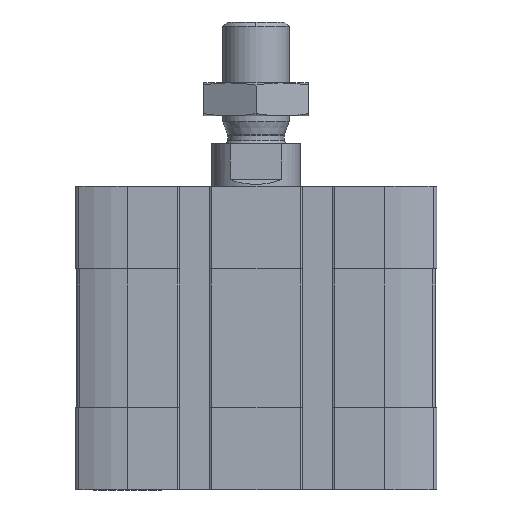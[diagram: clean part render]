
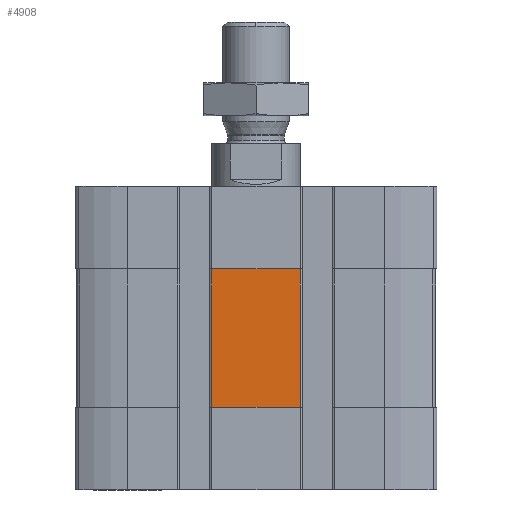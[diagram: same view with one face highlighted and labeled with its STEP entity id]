
A CAD part, front view. The second image highlights one B-rep face of the part: STEP entity #4908.
In plain terms, the highlighted planar face has unit normal (0, -1, 0).
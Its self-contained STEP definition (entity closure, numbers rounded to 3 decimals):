
#1148 = EDGE_CURVE ( 'NONE', #10232, #4633, #11997, .T. ) ;
#2837 = DIRECTION ( 'NONE',  ( 0., 0., -1. ) ) ;
#2951 = DIRECTION ( 'NONE',  ( 0., -1., 0. ) ) ;
#3114 = VECTOR ( 'NONE', #4556, 1000. ) ;
#3201 = EDGE_CURVE ( 'NONE', #4633, #15611, #5579, .T. ) ;
#3268 = ORIENTED_EDGE ( 'NONE', *, *, #13038, .T. ) ;
#3317 = CARTESIAN_POINT ( 'NONE',  ( -8., -32.5, -40. ) ) ;
#4149 = CARTESIAN_POINT ( 'NONE',  ( -8., -32.5, -40. ) ) ;
#4556 = DIRECTION ( 'NONE',  ( 1., 0., 0. ) ) ;
#4633 = VERTEX_POINT ( 'NONE', #8665 ) ;
#4719 = EDGE_LOOP ( 'NONE', ( #8792, #7069, #4897, #3268 ) ) ;
#4897 = ORIENTED_EDGE ( 'NONE', *, *, #3201, .T. ) ;
#4908 = ADVANCED_FACE ( 'NONE', ( #6043 ), #9146, .T. ) ;
#5216 = CARTESIAN_POINT ( 'NONE',  ( -8., -32.5, -40. ) ) ;
#5579 = LINE ( 'NONE', #8404, #6361 ) ;
#6043 = FACE_OUTER_BOUND ( 'NONE', #4719, .T. ) ;
#6361 = VECTOR ( 'NONE', #15839, 1000. ) ;
#6577 = CARTESIAN_POINT ( 'NONE',  ( -8., -32.5, -40. ) ) ;
#7069 = ORIENTED_EDGE ( 'NONE', *, *, #1148, .T. ) ;
#7386 = CARTESIAN_POINT ( 'NONE',  ( -8., -32.5, -15. ) ) ;
#8404 = CARTESIAN_POINT ( 'NONE',  ( 0., -32.5, -15. ) ) ;
#8665 = CARTESIAN_POINT ( 'NONE',  ( 8., -32.5, -15. ) ) ;
#8792 = ORIENTED_EDGE ( 'NONE', *, *, #15033, .T. ) ;
#8919 = AXIS2_PLACEMENT_3D ( 'NONE', #4149, #2951, #11708 ) ;
#9146 = PLANE ( 'NONE',  #8919 ) ;
#9790 = LINE ( 'NONE', #3317, #3114 ) ;
#9880 = LINE ( 'NONE', #6577, #16042 ) ;
#10232 = VERTEX_POINT ( 'NONE', #13076 ) ;
#11025 = VERTEX_POINT ( 'NONE', #5216 ) ;
#11611 = VECTOR ( 'NONE', #12243, 1000. ) ;
#11708 = DIRECTION ( 'NONE',  ( 0., 0., -1. ) ) ;
#11997 = LINE ( 'NONE', #12220, #11611 ) ;
#12220 = CARTESIAN_POINT ( 'NONE',  ( 8., -32.5, -40. ) ) ;
#12243 = DIRECTION ( 'NONE',  ( 0., 0., 1. ) ) ;
#13038 = EDGE_CURVE ( 'NONE', #15611, #11025, #9880, .T. ) ;
#13076 = CARTESIAN_POINT ( 'NONE',  ( 8., -32.5, -40. ) ) ;
#15033 = EDGE_CURVE ( 'NONE', #11025, #10232, #9790, .T. ) ;
#15611 = VERTEX_POINT ( 'NONE', #7386 ) ;
#15839 = DIRECTION ( 'NONE',  ( -1., 0., 0. ) ) ;
#16042 = VECTOR ( 'NONE', #2837, 1000. ) ;
